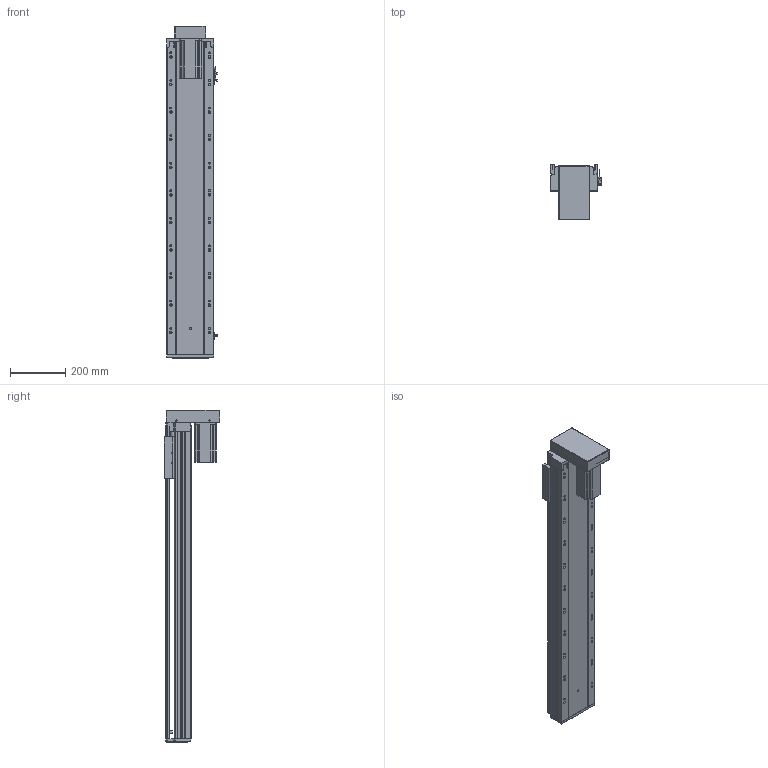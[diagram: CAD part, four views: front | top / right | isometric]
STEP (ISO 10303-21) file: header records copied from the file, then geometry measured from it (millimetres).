
FILE_DESCRIPTION (( 'STEP AP203' ), '1' );
FILE_NAME ('RY170-L2510-300-BK.SLDASM_900.step', '2021-03-12T08:58:32', ( '盈信电脑' ), ( '东莞市道滘镇水果街19号' ), 'SwSTEP 2.0', 'SolidWorks 2012', '' );
FILE_SCHEMA (( 'CONFIG_CONTROL_DESIGN' ));
Length unit declared in the file: millimetre
Products named in the file (14): RY170-300倰第菁釱-BK_900; 改造-RY170铝滑块25丝杆螺母; RY170綴裔啣; RY170-300倰第裔啣-BK_900; RY170-L2510-300-BK.SLDASM_900; RY170-狟殏萇儂假蚾啣; RY170-狟殏750W萇儂傷; 怢湛750W萇儂ㄗ80遺ㄘ; RY170狟殏萇儂欶; 滅袉蝶18-20; RY170转折电机端支撑座(7004); 滅袉蝶18-10; RY170外置感应片(200共用）; 覜茼ん672
Assembly tree (15 placements, depth 3):
  RY170-L2510-300-BK.SLDASM_900
    RY170-300倰第菁釱-BK_900
    改造-RY170铝滑块25丝杆螺母
    RY170-300倰第裔啣-BK_900
    RY170綴裔啣
    覜茼ん672  x3
    RY170外置感应片(200共用）
    滅袉蝶18-20
    滅袉蝶18-10
    RY170转折电机端支撑座(7004)
    RY170-狟殏750W萇儂傷
      RY170-狟殏萇儂假蚾啣
      RY170狟殏萇儂欶
      怢湛750W萇儂ㄗ80遺ㄘ
Bounding box: 183.7 x 200.8 x 1204.5 mm (x, y, z)
Volume: 6756776.6 mm3; surface area: 2091801.9 mm2
Topology: 14 solids, 14 shells, 2260 faces, 6581 edges, 4234 vertices
Faces by surface type: plane 1088, cylinder 975, cone 178, bspline 19
Entity records: 74922 total; most frequent: CARTESIAN_POINT 18825, ORIENTED_EDGE 11898, DIRECTION 10785, EDGE_CURVE 5949, VERTEX_POINT 3914, AXIS2_PLACEMENT_3D 3612, LINE 3561, VECTOR 3561
